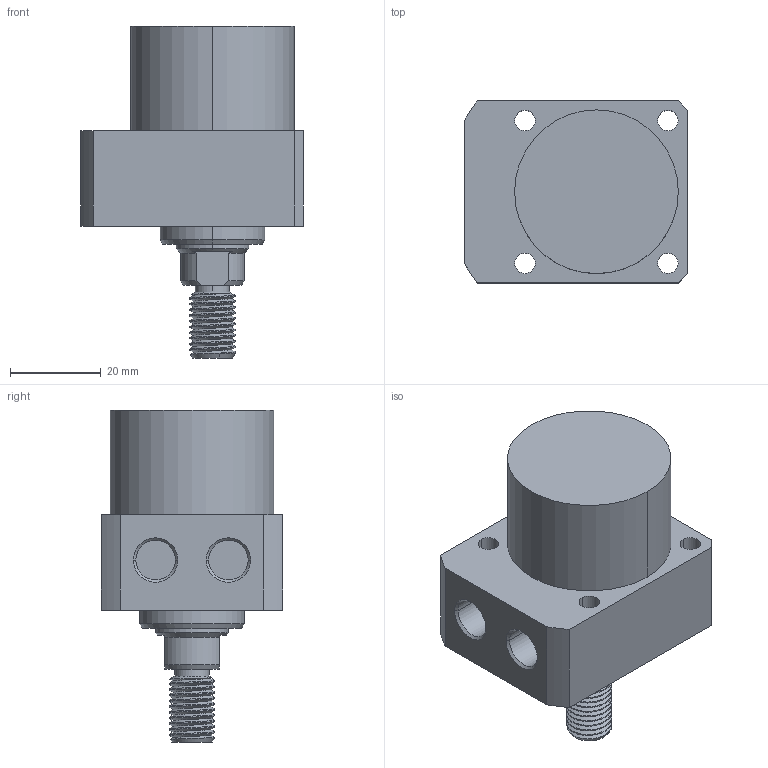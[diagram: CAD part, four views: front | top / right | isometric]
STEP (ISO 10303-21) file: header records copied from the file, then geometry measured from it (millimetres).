
FILE_DESCRIPTION((' '),'2;1');
FILE_NAME( 'TLLR-036CT-015.STEP.stp', '2025-10-24T16:35:46', (' '), ('--- Datakit www.datakit.com---'), ' Datakit CrossCadWare V2024.1 Dec 21 2023', 'Mastercam 2025', ' ');
FILE_SCHEMA(('AUTOMOTIVE_DESIGN { 1 0 10303 214 1 1 1 1 }'));
Length unit declared in the file: millimetre
Products named in the file (1): TLLR-036CT-015
Bounding box: 49 x 40 x 73 mm (x, y, z)
Volume: 65397.2 mm3; surface area: 13292.6 mm2
Topology: 1 solids, 1 shells, 87 faces, 291 edges, 214 vertices
Faces by surface type: cylinder 50, plane 21, cone 14, bspline 2
Entity records: 7459 total; most frequent: CARTESIAN_POINT 4832, ORIENTED_EDGE 582, DIRECTION 466, EDGE_CURVE 291, VERTEX_POINT 214, AXIS2_PLACEMENT_3D 188, EDGE_LOOP 103, CIRCLE 102
